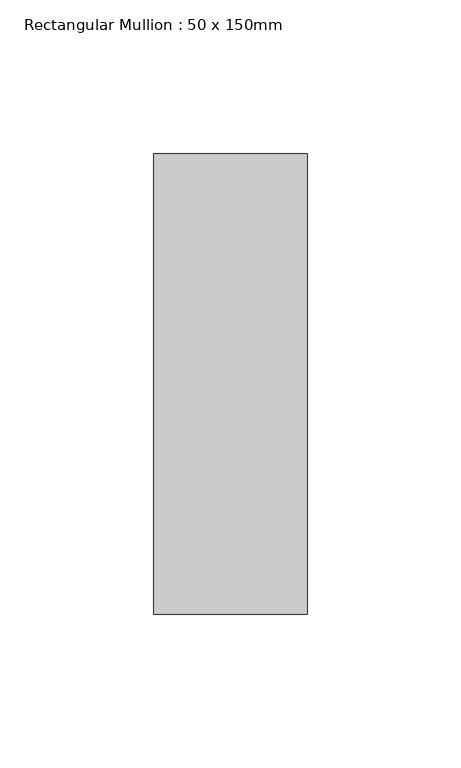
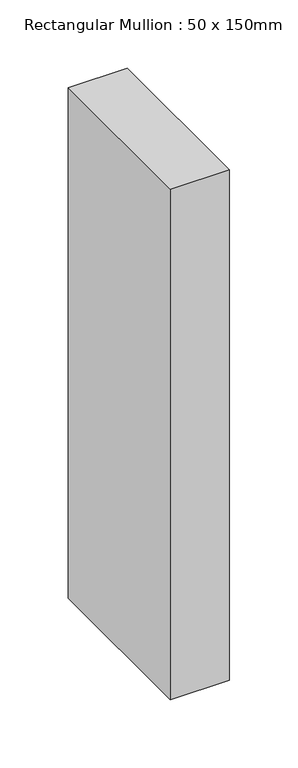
"""IFC4 building model written with IfcOpenShell, lengths in millimetres: member geometry, Rectangular Mullion : 50 x 150mm."""

from ifc_helpers import new_model, si_unit, frame, origin, place, context, project, spatial, polyline, outline, extrude, source, transform, mapped, element, save


def rectangular_mullion_50_x_150mm_e5e1dcca(model_context):
    return source(origin(), model_context, "Body", "SweptSolid", [
        extrude(outline(polyline([(25.0, 75.0), (25.0, -75.0), (-25.0, -75.0), (-25.0, 75.0), (25.0, 75.0)])), frame((0.0, 0.0, -457.2), z_axis=(0.0, 0.0, 1.0), x_axis=(1.0, 0.0, 0.0)), (0.0, 0.0, 1.0), 457.2),
    ])


if __name__ == "__main__":
    model = new_model("IFC4")
    model_context = context("Model", 3, world=origin())
    ifc_project = project(units=[si_unit("LENGTHUNIT", "METRE", prefix="MILLI")], contexts=[model_context])
    site = spatial("IfcSite", under=ifc_project)
    building = spatial("IfcBuilding", under=site)
    placement = place(None, origin())
    rectangular_mullion_50_x_150mm_shape = rectangular_mullion_50_x_150mm_e5e1dcca(model_context)
    element("IfcMember", 1, ObjectType="Rectangular Mullion : 50 x 150mm", at=placement, inside=building, context=model_context, shape_type="MappedRepresentation", body=[
        mapped(rectangular_mullion_50_x_150mm_shape, transform((0.0, 0.0, 0.0), x_axis=(1.0, 0.0, 0.0), y_axis=(0.0, 1.0, 0.0), z_axis=(0.0, 0.0, 1.0))),
    ])
    save(model, "model.ifc")
